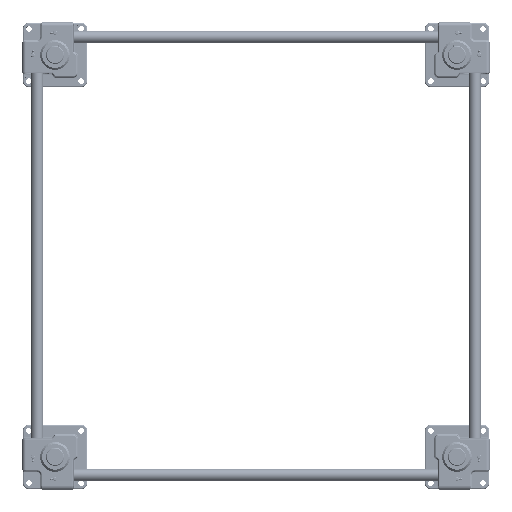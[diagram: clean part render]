
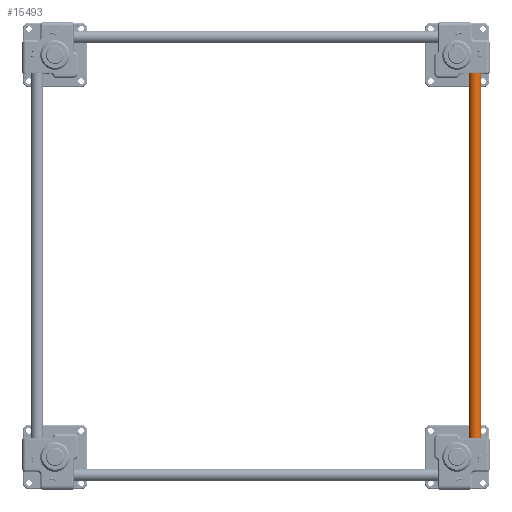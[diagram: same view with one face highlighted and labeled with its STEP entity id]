
A CAD part, top view. The second image highlights one B-rep face of the part: STEP entity #15493.
In plain terms, the highlighted cylindrical face has radius 15 mm (diameter 30 mm), a full revolution.
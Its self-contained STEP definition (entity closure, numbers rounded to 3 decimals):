
#15493=ADVANCED_FACE('',(#35985,#35986),#35987,.T.);
#35985=FACE_OUTER_BOUND('',#60028,.T.);
#35986=FACE_OUTER_BOUND('',#60029,.T.);
#35987=CYLINDRICAL_SURFACE('',#60030,15.0);
#60028=EDGE_LOOP('',(#140090));
#60029=EDGE_LOOP('',(#140091));
#60030=AXIS2_PLACEMENT_3D('',#140092,#140093,#140094);
#140090=ORIENTED_EDGE('',*,*,#165645,.T.);
#140091=ORIENTED_EDGE('',*,*,#165642,.T.);
#140092=CARTESIAN_POINT('',(0.0,0.0,1054.0));
#140093=DIRECTION('',(0.0,0.0,-1.0));
#140094=DIRECTION('',(-1.0,0.0,0.0));
#165642=EDGE_CURVE('',#208034,#208034,#208035,.F.);
#165645=EDGE_CURVE('',#208040,#208040,#208041,.T.);
#208034=VERTEX_POINT('',#279632);
#208035=CIRCLE('',#279633,15.0);
#208040=VERTEX_POINT('',#279638);
#208041=CIRCLE('',#279639,15.0);
#279632=CARTESIAN_POINT('',(15.0,0.0,1053.0));
#279633=AXIS2_PLACEMENT_3D('',#310660,#310661,#310662);
#279638=CARTESIAN_POINT('',(15.0,0.0,1.));
#279639=AXIS2_PLACEMENT_3D('',#310669,#310670,#310671);
#310660=CARTESIAN_POINT('',(0.0,0.0,1053.0));
#310661=DIRECTION('',(0.0,0.0,1.0));
#310662=DIRECTION('',(1.0,0.0,0.0));
#310669=CARTESIAN_POINT('',(0.0,0.0,1.));
#310670=DIRECTION('',(0.0,0.0,1.0));
#310671=DIRECTION('',(1.0,0.0,0.0));
